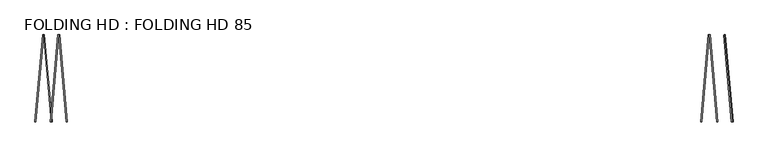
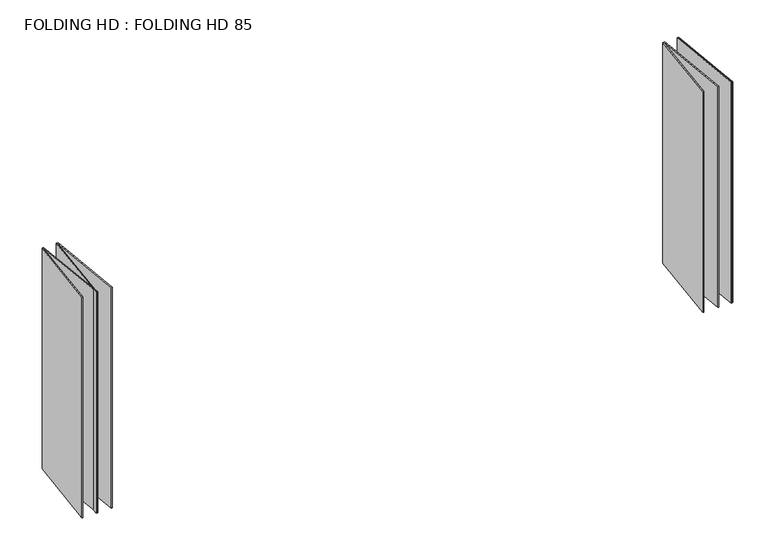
"""IFC4 building model written with IfcOpenShell, lengths in millimetres: plate geometry, FOLDING HD : FOLDING HD 85."""

from ifc_helpers import new_model, si_unit, origin, origin_with_axes, place, context, project, spatial, polyline, outline, extrude, source, transform, mapped, element, save


def folding_hd_folding_hd_85_4018a160(model_context):
    return source(origin(), model_context, "Body", "SweptSolid", [
        extrude(outline(polyline([(3496.5598315, 896.5752283), (3574.9999995, 0.0), (3565.0380525, -0.8715574), (3486.5978845, 895.7036709), (3496.5598315, 896.5752283)])), origin_with_axes(), (0.0, 0.0, 1.0), 2570.0),
        extrude(outline(polyline([(3496.5598315, 896.5752283), (3506.5217785, 897.4467857), (3584.961947, 0.8715574), (3575.0, 0.0), (3496.5598315, 896.5752283)])), origin_with_axes(), (0.0, 0.0, 1.0), 2570.0),
        extrude(outline(polyline([(3339.6794946, 896.5752283), (3349.6414416, 897.4467857), (3428.08161, 0.8715574), (3418.1196631, 0.0), (3339.6794946, 896.5752283)])), origin_with_axes(), (0.0, 0.0, 1.0), 2570.0),
        extrude(outline(polyline([(3339.6794946, 896.5752283), (3261.2393261, 0.0), (3251.2773791, 0.8715574), (3329.7175476, 897.4467857), (3339.6794946, 896.5752283)])), origin_with_axes(), (0.0, 0.0, 1.0), 2570.0),
        extrude(outline(polyline([(-3339.6794946, 896.5752283), (-3418.1196631, 0.0), (-3428.08161, 0.8715574), (-3349.6414416, 897.4467857), (-3339.6794946, 896.5752283)])), origin_with_axes(), (0.0, 0.0, 1.0), 2570.0),
        extrude(outline(polyline([(-3339.6794946, 896.5752283), (-3329.7175476, 897.4467857), (-3251.2773791, 0.8715574), (-3261.2393261, 0.0), (-3339.6794946, 896.5752283)])), origin_with_axes(), (0.0, 0.0, 1.0), 2570.0),
        extrude(outline(polyline([(-3496.5598315, 896.5752283), (-3486.5978845, 897.4467857), (-3408.1577161, 0.8715574), (-3418.1196631, 0.0), (-3496.5598315, 896.5752283)])), origin_with_axes(), (0.0, 0.0, 1.0), 2570.0),
        extrude(outline(polyline([(-3496.5598315, 896.5752283), (-3575.0, 0.0), (-3584.961947, 0.8715574), (-3506.5217785, 897.4467857), (-3496.5598315, 896.5752283)])), origin_with_axes(), (0.0, 0.0, 1.0), 2570.0),
    ])


if __name__ == "__main__":
    model = new_model("IFC4")
    model_context = context("Model", 3, world=origin())
    ifc_project = project(units=[si_unit("LENGTHUNIT", "METRE", prefix="MILLI")], contexts=[model_context])
    site = spatial("IfcSite", under=ifc_project)
    building = spatial("IfcBuilding", under=site)
    placement = place(None, origin())
    folding_hd_folding_hd_85_shape = folding_hd_folding_hd_85_4018a160(model_context)
    element("IfcPlate", 1, ObjectType="FOLDING HD : FOLDING HD 85", at=placement, inside=building, context=model_context, shape_type="MappedRepresentation", body=[
        mapped(folding_hd_folding_hd_85_shape, transform((0.0, 0.0, 0.0), x_axis=(1.0, 0.0, 0.0), y_axis=(0.0, 1.0, 0.0), z_axis=(0.0, 0.0, 1.0))),
    ])
    save(model, "model.ifc")
